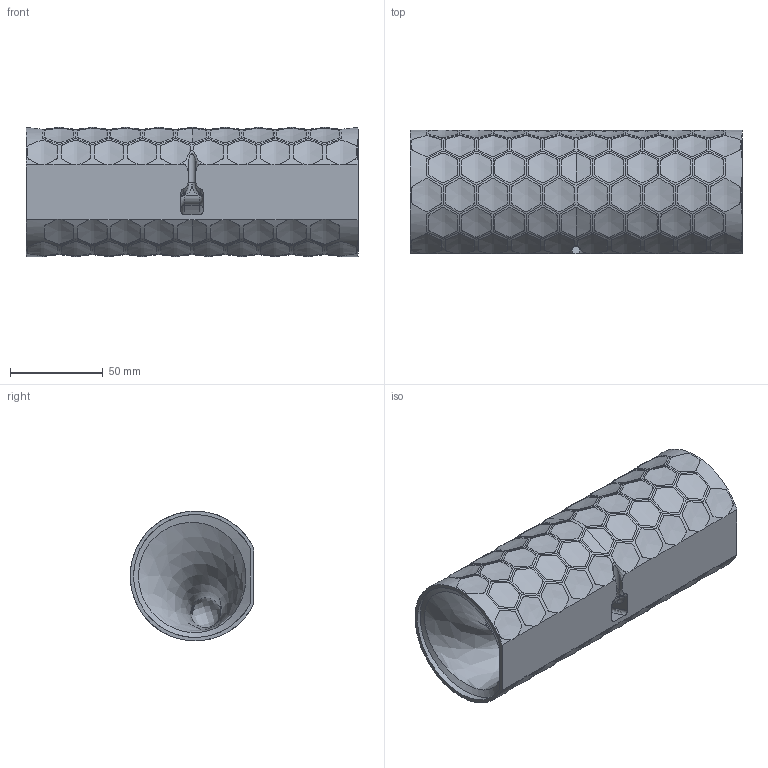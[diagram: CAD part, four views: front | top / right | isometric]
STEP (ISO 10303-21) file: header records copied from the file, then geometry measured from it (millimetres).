
FILE_DESCRIPTION (( 'STEP AP214' ), '1' );
FILE_NAME ('Body - w Logo Insert.STEP', '2015-03-13T18:51:46', ( '' ), ( '' ), 'SwSTEP 2.0', 'SolidWorks 2015', '' );
FILE_SCHEMA (( 'AUTOMOTIVE_DESIGN' ));
Length unit declared in the file: millimetre
Products named in the file (1): Body - w Logo Insert
Bounding box: 179.26 x 66.62 x 70 mm (x, y, z)
Volume: 522796.3 mm3; surface area: 61542.7 mm2
Topology: 1 solids, 1 shells, 330 faces, 2111 edges, 1828 vertices
Faces by surface type: bspline 161, cylinder 135, plane 26, torus 6, sphere 2
Full cylindrical faces by diameter (mm): 1.25 x38
Entity records: 100594 total; most frequent: CARTESIAN_POINT 87783, ORIENTED_EDGE 4050, EDGE_CURVE 2025, VERTEX_POINT 1786, B_SPLINE_CURVE_WITH_KNOTS 1713, DIRECTION 796, EDGE_LOOP 497, FACE_OUTER_BOUND 372
